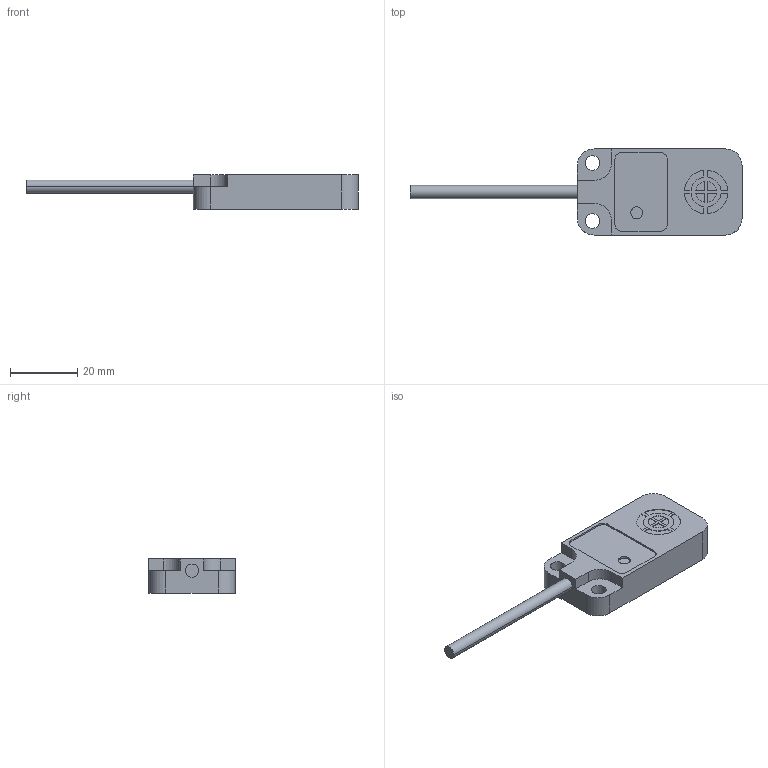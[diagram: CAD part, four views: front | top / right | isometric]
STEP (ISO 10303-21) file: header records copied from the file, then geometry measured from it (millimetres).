
FILE_DESCRIPTION (( 'STEP AP214' ), '1' );
FILE_NAME ('SP25-B.STEP', '2025-09-10T12:43:31', ( 'Windows User' ), ( 'P R C' ), 'SwSTEP 2.0', 'SolidWorks 2023', '' );
FILE_SCHEMA (( 'AUTOMOTIVE_DESIGN' ));
Length unit declared in the file: millimetre
Products named in the file (1): SP25-B
Bounding box: 99 x 25.7 x 10.2 mm (x, y, z)
Volume: 11897.8 mm3; surface area: 5240.1 mm2
Topology: 1 solids, 1 shells, 93 faces, 228 edges, 152 vertices
Faces by surface type: plane 55, cylinder 38
Entity records: 2789 total; most frequent: DIRECTION 492, CARTESIAN_POINT 474, ORIENTED_EDGE 456, EDGE_CURVE 228, AXIS2_PLACEMENT_3D 170, VERTEX_POINT 152, LINE 152, VECTOR 152
